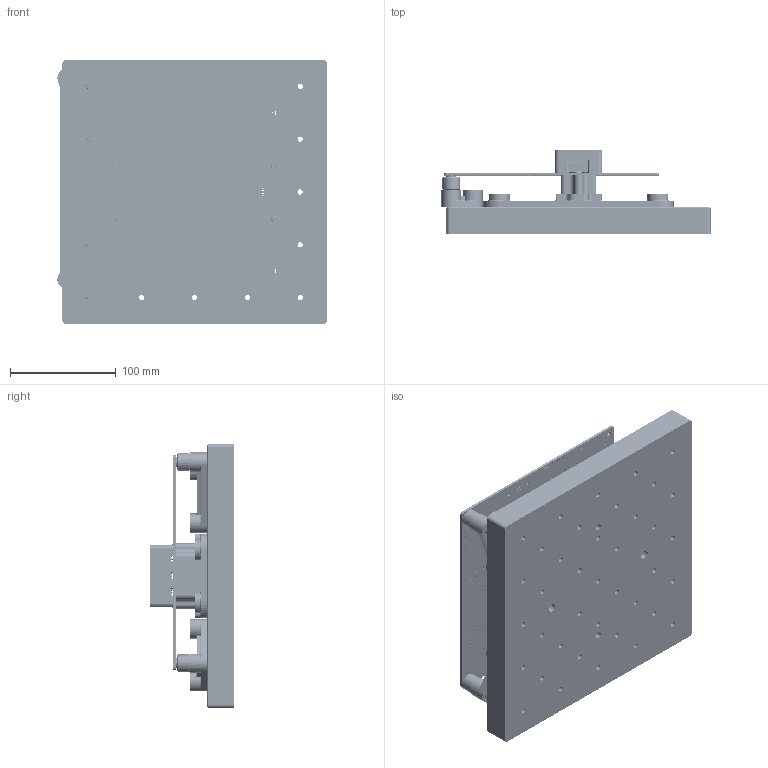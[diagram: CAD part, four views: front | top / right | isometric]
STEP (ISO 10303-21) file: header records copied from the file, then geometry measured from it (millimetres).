
FILE_DESCRIPTION (( 'STEP AP214' ), '1' );
FILE_NAME ('Example Press Assembly - CRD25DA12N-FMC - trimmed3.STEP', '2025-11-21T22:59:59', ( '' ), ( '' ), 'SwSTEP 2.0', 'SolidWorks 2024', '' );
FILE_SCHEMA (( 'AUTOMOTIVE_DESIGN' ));
Length unit declared in the file: millimetre
Products named in the file (16): Loc Fix - FM_1.STEP; CCB0xxM12FM3_1.STEP; Example Press Assembly - CRD25DA12N-FMC.STEP; Loc Block 1_1.STEP; Pillar 1_1.STEP; Loc Block 2_1.STEP; PATIM Pattern - FM3_1.STEP; M6 X 16 SHCS_96144A116_1.STEP; Press Tool - FM3_1.STEP; CRD25DA12P-FMC V1_Press_1.STEP; Example Press Assembly - CRD25DA12N-FMC - trimmed3; Board w Components Assy_Press_1.STEP; FM Press Block_1.STEP; FM3 PATIM ASSY_1.STEP; V1 Board_1.STEP; FMS-997-036_1.STEP
Assembly tree (23 placements, depth 5):
  Example Press Assembly - CRD25DA12N-FMC - trimmed3
    Example Press Assembly - CRD25DA12N-FMC.STEP
      CRD25DA12P-FMC V1_Press_1.STEP
        Board w Components Assy_Press_1.STEP
          V1 Board_1.STEP
        FM3 PATIM ASSY_1.STEP
          CCB0xxM12FM3_1.STEP
          PATIM Pattern - FM3_1.STEP
      FMS-997-036_1.STEP
      Loc Fix - FM_1.STEP
      M6 X 16 SHCS_96144A116_1.STEP  x8
      FM Press Block_1.STEP
      Loc Block 1_1.STEP
      Pillar 1_1.STEP  x2
      Loc Block 2_1.STEP
      Press Tool - FM3_1.STEP
Bounding box: 254.82 x 79.76 x 250 mm (x, y, z)
Volume: 1848934.9 mm3; surface area: 347328 mm2
Topology: 86 solids, 86 shells, 6645 faces, 16354 edges, 10531 vertices
Faces by surface type: cylinder 3005, plane 2106, cone 722, torus 456, bspline 353, sphere 3
Entity records: 189680 total; most frequent: CARTESIAN_POINT 50957, DIRECTION 28969, ORIENTED_EDGE 28194, EDGE_CURVE 14097, AXIS2_PLACEMENT_3D 11203, VERTEX_POINT 9077, EDGE_LOOP 7148, LINE 6563
